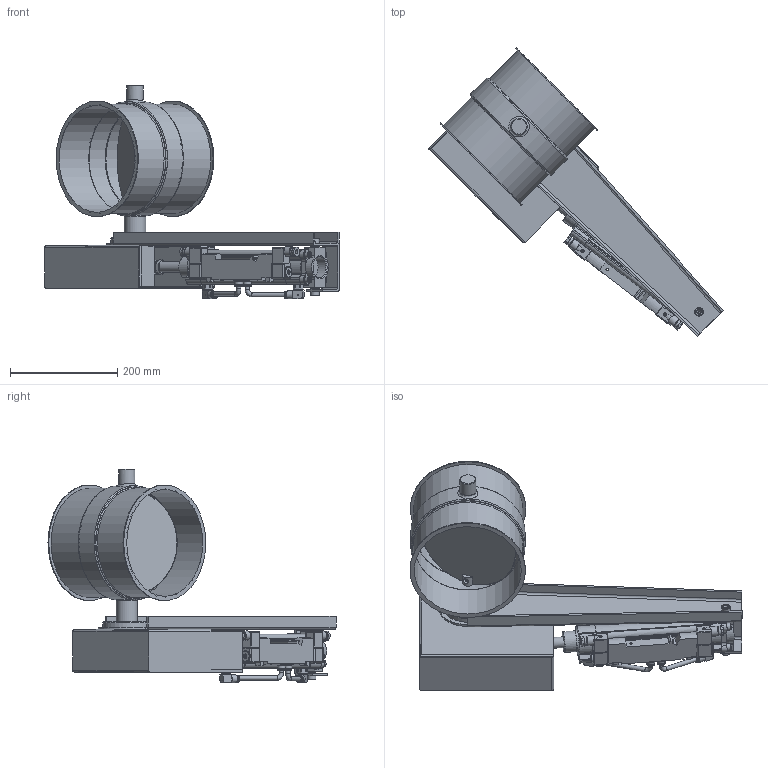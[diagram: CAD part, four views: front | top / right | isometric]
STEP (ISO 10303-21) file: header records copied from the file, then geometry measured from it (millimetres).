
FILE_DESCRIPTION((''),'2;1');
FILE_NAME('U:\Wolfgang\Marcel-3D\fertig\Kapitel 8\2021210.stp','2012-01-13T11:08:57',('iwienholt'),(''),'Autodesk Inventor 2010','Autodesk Inventor 2010','');
FILE_SCHEMA(('AUTOMOTIVE_DESIGN { 1 0 10303 214 1 1 1 1 }'));
Length unit declared in the file: millimetre
Products named in the file (33): 2021210; BuchseD20 90-50; Bolzen D20; Scheibe200b; F1 Zylindereinheit d20; 4527_MSFG_24_42_50_60_6_0; 4527_MSFG_24_42_50_60_6_01; 4527_MSFG_24_42_50_60_6_02; 537600_VUVB_S_B42_ZD_Q8_3AC1_6_0; 537600_VUVB_S_B42_ZD_Q8_3AC1_6_01; 537600_VUVB_S_B42_ZD_Q8_3AC1_6_02; 537600_VUVB_S_B42_ZD_Q8_3AC1_6_03; 153414_QSRL_1_4_8_6_0; schlauch; Schutzkasten; Kasten-a; Kasten-b; 532756_DNCB_50_160_PPV_A_6_0; 532756_DNCB_50_160_PPV_A_6_01; 532756_DNCB_50_160_PPV_A_6_02; 6146_SG_M16x15_6_0; 6146_SG_M16x15_6_01; 6146_SG_M16x15_6_02; 174413_ZNCF_50_6_0; 174413_ZNCF_50_6_01; 174413_ZNCF_50_6_02; 174413_ZNCF_50_6_03; 174413_ZNCF_50_6_04; 174413_ZNCF_50_6_05; 0021088 d20; Strebe d20; Bolzen20; 2021210-1
Assembly tree (36 placements, depth 4):
  2021210
    BuchseD20 90-50
    Bolzen D20  x2
    Scheibe200b
    F1 Zylindereinheit d20
      4527_MSFG_24_42_50_60_6_0  x2
        4527_MSFG_24_42_50_60_6_01
        4527_MSFG_24_42_50_60_6_02
      537600_VUVB_S_B42_ZD_Q8_3AC1_6_0
        537600_VUVB_S_B42_ZD_Q8_3AC1_6_01
        537600_VUVB_S_B42_ZD_Q8_3AC1_6_02
        537600_VUVB_S_B42_ZD_Q8_3AC1_6_03
      153414_QSRL_1_4_8_6_0  x2
      schlauch  x2
      Schutzkasten
        Kasten-a
        Kasten-b
      532756_DNCB_50_160_PPV_A_6_0
        532756_DNCB_50_160_PPV_A_6_01
        532756_DNCB_50_160_PPV_A_6_02
      6146_SG_M16x15_6_0
        6146_SG_M16x15_6_01
        6146_SG_M16x15_6_02
      174413_ZNCF_50_6_0
        174413_ZNCF_50_6_01
        174413_ZNCF_50_6_02
        174413_ZNCF_50_6_03
        174413_ZNCF_50_6_04
        174413_ZNCF_50_6_05
      0021088 d20
      Strebe d20
      Bolzen20
    2021210-1
Bounding box: 548.01 x 536 x 397.27 mm (x, y, z)
Volume: 2258572.6 mm3; surface area: 1130252.2 mm2
Topology: 30 solids, 30 shells, 2528 faces, 6777 edges, 4426 vertices
Faces by surface type: plane 1901, cylinder 434, cone 146, bspline 31, torus 14, sphere 2
Full cylindrical faces by diameter (mm): 1 x6, 2.459 x2, 3 x4, 3.5 x2, 4 x2, 4.5 x1, 5 x4, 5.471 x2, 5.5 x2, 6 x16, 6.647 x8, 7.188 x2, 8 x22, 8.05 x2, 9 x6, 9.6 x2, 10 x2, 10.15 x2, 11.445 x2, 12 x2, 13 x4, 13.05 x2, 13.157 x2, 13.346 x1, 14 x6, 14.376 x2, 14.4 x4, 14.5 x2, 14.7 x6, 15.1 x2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
Entity records: 72949 total; most frequent: CARTESIAN_POINT 14259, ORIENTED_EDGE 11722, DIRECTION 11272, EDGE_CURVE 5861, VECTOR 4782, LINE 4782, VERTEX_POINT 3979, EDGE_LOOP 3282
